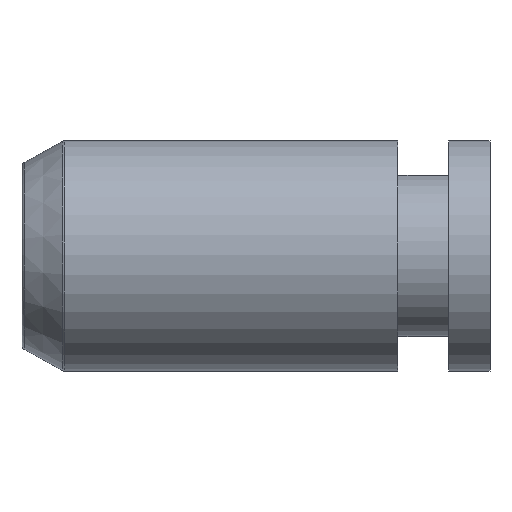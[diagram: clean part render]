
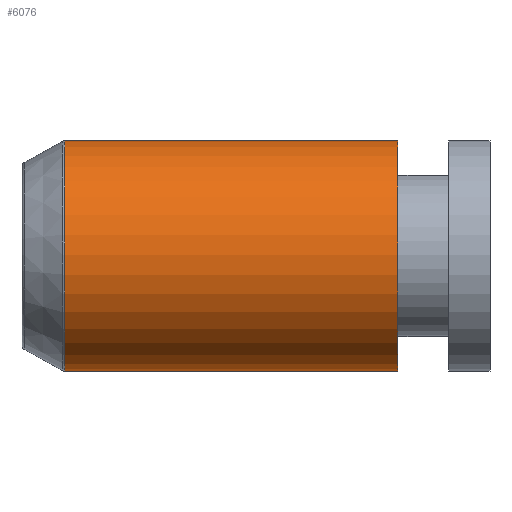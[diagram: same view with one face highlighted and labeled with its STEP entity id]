
A CAD part, left-side view. The second image highlights one B-rep face of the part: STEP entity #6076.
In plain terms, the highlighted cylindrical face has radius 12.5 mm (diameter 25 mm), a partial arc.
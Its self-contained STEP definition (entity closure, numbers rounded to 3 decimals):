
#779 = DIRECTION ( 'NONE',  ( 0., -1., 0. ) ) ;
#790 = CARTESIAN_POINT ( 'NONE',  ( -5.265, -5.485, 1.985 ) ) ;
#807 = CARTESIAN_POINT ( 'NONE',  ( -5.111, 35.315, 14.484 ) ) ;
#817 = DIRECTION ( 'NONE',  ( 0., 1., 0. ) ) ;
#835 = DIRECTION ( 'NONE',  ( 0.012, 0., 1. ) ) ;
#968 = CARTESIAN_POINT ( 'NONE',  ( -5.419, 35.315, -10.514 ) ) ;
#999 = DIRECTION ( 'NONE',  ( 0., -1., 0. ) ) ;
#1072 = DIRECTION ( 'NONE',  ( 0., -1., 0. ) ) ;
#1074 = DIRECTION ( 'NONE',  ( 0.012, 0., 1. ) ) ;
#1080 = CARTESIAN_POINT ( 'NONE',  ( -5.265, 30.685, 1.985 ) ) ;
#2615 = EDGE_CURVE ( 'NONE', #8116, #8112, #3345, .T. ) ;
#2617 = EDGE_CURVE ( 'NONE', #8104, #8112, #3368, .T. ) ;
#2650 = EDGE_CURVE ( 'NONE', #8061, #8104, #3387, .T. ) ;
#2658 = EDGE_CURVE ( 'NONE', #8116, #8061, #3431, .T. ) ;
#3345 = LINE ( 'NONE', #807, #3356 ) ;
#3356 = VECTOR ( 'NONE', #779, 1000. ) ;
#3368 = CIRCLE ( 'NONE', #7666, 12.5 ) ;
#3387 = LINE ( 'NONE', #968, #3432 ) ;
#3431 = CIRCLE ( 'NONE', #7667, 12.5 ) ;
#3432 = VECTOR ( 'NONE', #999, 1000. ) ;
#3647 = ORIENTED_EDGE ( 'NONE', *, *, #2617, .T. ) ;
#3789 = EDGE_LOOP ( 'NONE', ( #5266, #5302, #5258, #3647 ) ) ;
#4002 = FACE_OUTER_BOUND ( 'NONE', #3789, .T. ) ;
#4078 = CYLINDRICAL_SURFACE ( 'NONE', #7368, 12.5 ) ;
#4564 = DIRECTION ( 'NONE',  ( -0.012, 0., -1. ) ) ;
#4579 = DIRECTION ( 'NONE',  ( 0., -1., 0. ) ) ;
#4586 = CARTESIAN_POINT ( 'NONE',  ( -5.265, 35.315, 1.985 ) ) ;
#5258 = ORIENTED_EDGE ( 'NONE', *, *, #2650, .T. ) ;
#5266 = ORIENTED_EDGE ( 'NONE', *, *, #2615, .F. ) ;
#5302 = ORIENTED_EDGE ( 'NONE', *, *, #2658, .T. ) ;
#6076 = ADVANCED_FACE ( 'NONE', ( #4002 ), #4078, .T. ) ;
#6910 = CARTESIAN_POINT ( 'NONE',  ( -5.419, 30.685, -10.514 ) ) ;
#6931 = CARTESIAN_POINT ( 'NONE',  ( -5.111, 30.685, 14.484 ) ) ;
#6933 = CARTESIAN_POINT ( 'NONE',  ( -5.111, -5.485, 14.484 ) ) ;
#6965 = CARTESIAN_POINT ( 'NONE',  ( -5.419, -5.485, -10.514 ) ) ;
#7368 = AXIS2_PLACEMENT_3D ( 'NONE', #4586, #4579, #4564 ) ;
#7666 = AXIS2_PLACEMENT_3D ( 'NONE', #790, #817, #835 ) ;
#7667 = AXIS2_PLACEMENT_3D ( 'NONE', #1080, #1072, #1074 ) ;
#8061 = VERTEX_POINT ( 'NONE', #6910 ) ;
#8104 = VERTEX_POINT ( 'NONE', #6965 ) ;
#8112 = VERTEX_POINT ( 'NONE', #6933 ) ;
#8116 = VERTEX_POINT ( 'NONE', #6931 ) ;
